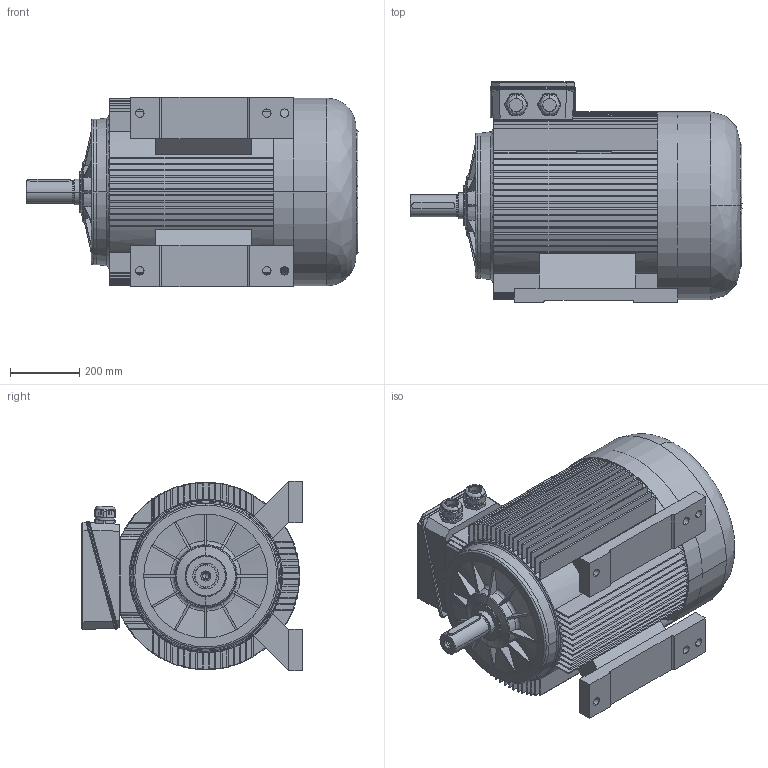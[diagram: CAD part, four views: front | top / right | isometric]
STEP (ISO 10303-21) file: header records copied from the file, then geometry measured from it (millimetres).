
FILE_DESCRIPTION (( 'STEP AP203' ), '1' );
FILE_NAME ('GM 280 M (2) AYAKLI (B3).stp', '2019-10-10T07:02:36', ( '' ), ( '' ), 'SwSTEP 2.0', 'SolidWorks 2019', '' );
FILE_SCHEMA (( 'CONFIG_CONTROL_DESIGN' ));
Length unit declared in the file: millimetre
Products named in the file (9): ~PART1_3; GM 280 M (2) AYAKLI (B3); ~PART1_2; ~PART1; PG42 RAKOR; PART1
Assembly tree (11 placements, depth 4):
  GM 280 M (2) AYAKLI (B3)
    PART1
    PG42 RAKOR
      ~PART1
        ~PART1_3
        ~PART1_2
        ~PART1
    PG42 RAKOR
      ~PART1
        ~PART1_3
        ~PART1_2
        ~PART1
Bounding box: 962 x 640 x 550 mm (x, y, z)
Volume: 155889764.3 mm3; surface area: 5321192.3 mm2
Topology: 7 solids, 7 shells, 1290 faces, 3268 edges, 2075 vertices
Faces by surface type: plane 673, cylinder 394, cone 130, bspline 71, torus 22
Entity records: 38020 total; most frequent: CARTESIAN_POINT 9055, ORIENTED_EDGE 5866, DIRECTION 5802, EDGE_CURVE 2933, AXIS2_PLACEMENT_3D 2014, VERTEX_POINT 1886, VECTOR 1774, LINE 1774
